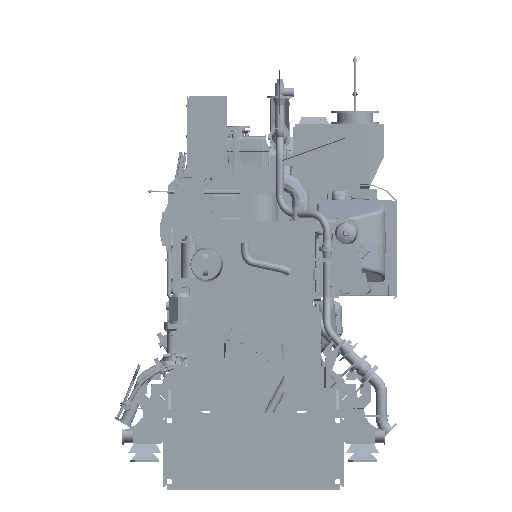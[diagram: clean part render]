
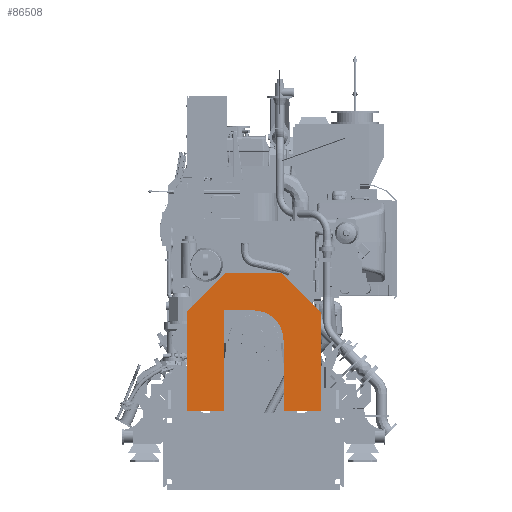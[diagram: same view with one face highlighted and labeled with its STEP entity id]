
A CAD part, left-side view. The second image highlights one B-rep face of the part: STEP entity #86508.
In plain terms, the highlighted planar face has unit normal (-1, 0, 0) as drawn and (0, 0, 1) by its records, which use the part's own axes.
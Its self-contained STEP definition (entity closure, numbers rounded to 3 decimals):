
#21687=CIRCLE('',#385883,297.);
#68243=PLANE('',#385884);
#86508=ADVANCED_FACE('',(#104307),#68243,.F.);
#104307=FACE_OUTER_BOUND('',#126827,.T.);
#126827=EDGE_LOOP('',(#264062,#264063,#264064,#264065,#264066,#264067,#264068,
#264069,#264070,#264071,#264072));
#156608=LINE('',#744812,#185474);
#156609=LINE('',#744815,#185475);
#156610=LINE('',#744817,#185476);
#156611=LINE('',#744819,#185477);
#156612=LINE('',#744821,#185478);
#156613=LINE('',#744823,#185479);
#156614=LINE('',#744825,#185480);
#156615=LINE('',#744827,#185481);
#156616=LINE('',#744829,#185482);
#156617=LINE('',#744833,#185483);
#185474=VECTOR('',#462469,1.);
#185475=VECTOR('',#462470,1.);
#185476=VECTOR('',#462471,1.);
#185477=VECTOR('',#462472,1.);
#185478=VECTOR('',#462473,1.);
#185479=VECTOR('',#462474,1.);
#185480=VECTOR('',#462475,1.);
#185481=VECTOR('',#462476,1.);
#185482=VECTOR('',#462477,1.);
#185483=VECTOR('',#462480,1.);
#264062=ORIENTED_EDGE('',*,*,#349169,.F.);
#264063=ORIENTED_EDGE('',*,*,#349170,.F.);
#264064=ORIENTED_EDGE('',*,*,#349171,.F.);
#264065=ORIENTED_EDGE('',*,*,#349172,.F.);
#264066=ORIENTED_EDGE('',*,*,#349173,.F.);
#264067=ORIENTED_EDGE('',*,*,#349174,.F.);
#264068=ORIENTED_EDGE('',*,*,#349175,.F.);
#264069=ORIENTED_EDGE('',*,*,#349176,.F.);
#264070=ORIENTED_EDGE('',*,*,#349177,.F.);
#264071=ORIENTED_EDGE('',*,*,#349178,.F.);
#264072=ORIENTED_EDGE('',*,*,#349179,.F.);
#306053=VERTEX_POINT('',#744813);
#306054=VERTEX_POINT('',#744814);
#306055=VERTEX_POINT('',#744816);
#306056=VERTEX_POINT('',#744818);
#306057=VERTEX_POINT('',#744820);
#306058=VERTEX_POINT('',#744822);
#306059=VERTEX_POINT('',#744824);
#306060=VERTEX_POINT('',#744826);
#306061=VERTEX_POINT('',#744828);
#306062=VERTEX_POINT('',#744830);
#306063=VERTEX_POINT('',#744832);
#349169=EDGE_CURVE('',#306053,#306054,#156608,.T.);
#349170=EDGE_CURVE('',#306055,#306053,#156609,.T.);
#349171=EDGE_CURVE('',#306056,#306055,#156610,.T.);
#349172=EDGE_CURVE('',#306057,#306056,#156611,.T.);
#349173=EDGE_CURVE('',#306058,#306057,#156612,.T.);
#349174=EDGE_CURVE('',#306059,#306058,#156613,.T.);
#349175=EDGE_CURVE('',#306060,#306059,#156614,.T.);
#349176=EDGE_CURVE('',#306061,#306060,#156615,.T.);
#349177=EDGE_CURVE('',#306062,#306061,#156616,.T.);
#349178=EDGE_CURVE('',#306063,#306062,#21687,.T.);
#349179=EDGE_CURVE('',#306054,#306063,#156617,.T.);
#385883=AXIS2_PLACEMENT_3D('',#744831,#462478,#462479);
#385884=AXIS2_PLACEMENT_3D('',#744834,#462481,#462482);
#462469=DIRECTION('',(-1.,0.,0.));
#462470=DIRECTION('',(0.,-1.,0.));
#462471=DIRECTION('',(0.707,-0.707,0.));
#462472=DIRECTION('',(1.,0.,0.));
#462473=DIRECTION('',(0.707,0.707,0.));
#462474=DIRECTION('',(0.,1.,0.));
#462475=DIRECTION('',(-1.,0.,0.));
#462476=DIRECTION('',(0.,-1.,0.));
#462477=DIRECTION('',(-1.,0.,0.));
#462478=DIRECTION('',(0.,0.,1.));
#462479=DIRECTION('',(-1.,0.,0.));
#462480=DIRECTION('',(0.,1.,0.));
#462481=DIRECTION('',(0.,0.,-1.));
#462482=DIRECTION('',(-1.,0.,0.));
#744812=CARTESIAN_POINT('',(1362.99,-2063.934,891.));
#744813=CARTESIAN_POINT('',(1362.99,-2063.934,891.));
#744814=CARTESIAN_POINT('',(994.99,-2063.934,891.));
#744815=CARTESIAN_POINT('',(1362.99,-1075.934,891.));
#744816=CARTESIAN_POINT('',(1362.99,-1075.934,891.));
#744817=CARTESIAN_POINT('',(974.99,-687.934,891.));
#744818=CARTESIAN_POINT('',(974.99,-687.934,891.));
#744819=CARTESIAN_POINT('',(420.99,-687.934,891.));
#744820=CARTESIAN_POINT('',(420.99,-687.934,891.));
#744821=CARTESIAN_POINT('',(32.99,-1075.934,891.));
#744822=CARTESIAN_POINT('',(32.99,-1075.934,891.));
#744823=CARTESIAN_POINT('',(32.99,-1882.603,891.));
#744824=CARTESIAN_POINT('',(32.99,-2063.934,891.));
#744825=CARTESIAN_POINT('',(1362.99,-2063.934,891.));
#744826=CARTESIAN_POINT('',(400.99,-2063.934,891.));
#744827=CARTESIAN_POINT('',(400.99,-2188.753,891.));
#744828=CARTESIAN_POINT('',(400.99,-1062.603,891.));
#744829=CARTESIAN_POINT('',(400.99,-1062.603,891.));
#744830=CARTESIAN_POINT('',(697.99,-1062.603,891.));
#744831=CARTESIAN_POINT('',(697.99,-1359.603,891.));
#744832=CARTESIAN_POINT('',(994.99,-1359.603,891.));
#744833=CARTESIAN_POINT('',(994.99,-1359.603,891.));
#744834=CARTESIAN_POINT('',(615.978,-1971.643,891.));
